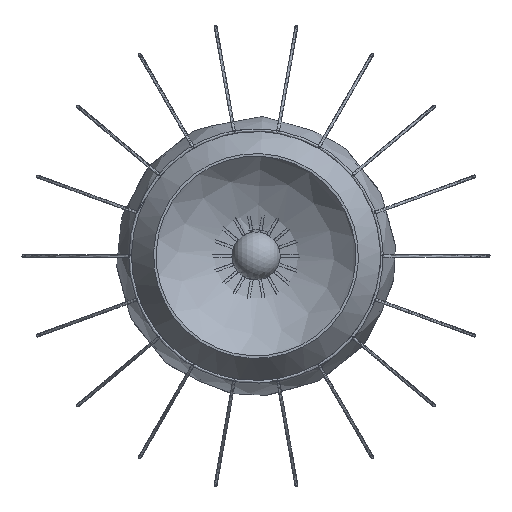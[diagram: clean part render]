
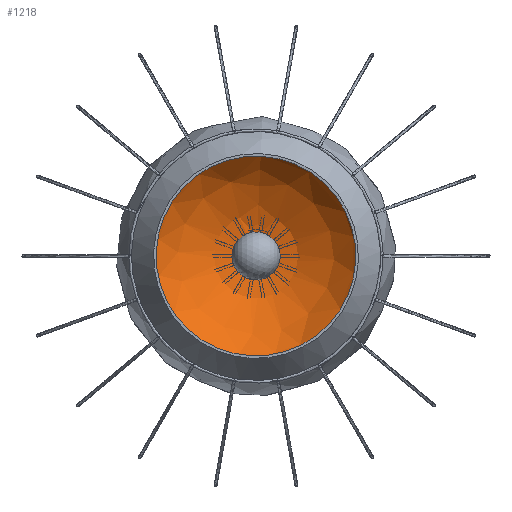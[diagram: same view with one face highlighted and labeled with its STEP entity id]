
A CAD part, front view. The second image highlights one B-rep face of the part: STEP entity #1218.
In plain terms, the highlighted free-form (B-spline) face has degree [2, 2] with [5, 9] control points.
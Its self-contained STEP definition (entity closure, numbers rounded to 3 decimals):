
#27=(
BOUNDED_CURVE()
B_SPLINE_CURVE(2,(#4148,#4149,#4150,#4151,#4152),.UNSPECIFIED.,.F.,.F.)
B_SPLINE_CURVE_WITH_KNOTS((3,2,3),(-0.764,0.395,
1.553),.UNSPECIFIED.)
CURVE()
GEOMETRIC_REPRESENTATION_ITEM()
RATIONAL_B_SPLINE_CURVE((1.,0.837,1.,0.837,1.))
REPRESENTATION_ITEM('')
);
#61=(
BOUNDED_SURFACE()
B_SPLINE_SURFACE(2,2,((#4103,#4104,#4105,#4106,#4107,#4108,#4109,#4110,
#4111),(#4112,#4113,#4114,#4115,#4116,#4117,#4118,#4119,#4120),(#4121,#4122,
#4123,#4124,#4125,#4126,#4127,#4128,#4129),(#4130,#4131,#4132,#4133,#4134,
#4135,#4136,#4137,#4138),(#4139,#4140,#4141,#4142,#4143,#4144,#4145,#4146,
#4147)),.UNSPECIFIED.,.F.,.T.,.F.)
B_SPLINE_SURFACE_WITH_KNOTS((3,2,3),(3,2,2,2,3),(-1.553,-0.395,
0.764),(-3.142,-1.571,0.,1.571,
3.142),.UNSPECIFIED.)
GEOMETRIC_REPRESENTATION_ITEM()
RATIONAL_B_SPLINE_SURFACE(((1.,0.707,1.,0.707,1.,
0.707,1.,0.707,1.),(0.837,0.592,
0.837,0.592,0.837,0.592,
0.837,0.592,0.837),(1.,0.707,
1.,0.707,1.,0.707,1.,0.707,1.),(0.837,
0.592,0.837,0.592,0.837,
0.592,0.837,0.592,0.837),
(1.,0.707,1.,0.707,1.,0.707,1.,0.707,
1.)))
REPRESENTATION_ITEM('')
SURFACE()
);
#286=FACE_OUTER_BOUND('',#391,.T.);
#391=EDGE_LOOP('',(#1033,#1034,#1035,#1036,#1037,#1038));
#468=CIRCLE('',#1345,4.);
#469=CIRCLE('',#1346,4.);
#472=CIRCLE('',#1352,107.247);
#473=CIRCLE('',#1353,107.247);
#586=VERTEX_POINT('',#4088);
#587=VERTEX_POINT('',#4089);
#590=VERTEX_POINT('',#4099);
#591=VERTEX_POINT('',#4100);
#740=EDGE_CURVE('',#586,#587,#468,.T.);
#741=EDGE_CURVE('',#587,#586,#469,.T.);
#744=EDGE_CURVE('',#590,#591,#472,.T.);
#745=EDGE_CURVE('',#591,#590,#473,.T.);
#746=EDGE_CURVE('',#591,#587,#27,.T.);
#1033=ORIENTED_EDGE('',*,*,#744,.T.);
#1034=ORIENTED_EDGE('',*,*,#746,.T.);
#1035=ORIENTED_EDGE('',*,*,#741,.T.);
#1036=ORIENTED_EDGE('',*,*,#740,.T.);
#1037=ORIENTED_EDGE('',*,*,#746,.F.);
#1038=ORIENTED_EDGE('',*,*,#745,.T.);
#1218=ADVANCED_FACE('',(#286),#61,.T.);
#1345=AXIS2_PLACEMENT_3D('',#4090,#1554,#1555);
#1346=AXIS2_PLACEMENT_3D('',#4091,#1556,#1557);
#1352=AXIS2_PLACEMENT_3D('',#4101,#1568,#1569);
#1353=AXIS2_PLACEMENT_3D('',#4102,#1570,#1571);
#1554=DIRECTION('center_axis',(0.,1.,0.));
#1555=DIRECTION('ref_axis',(-1.,0.,0.));
#1556=DIRECTION('center_axis',(0.,1.,0.));
#1557=DIRECTION('ref_axis',(-1.,0.,0.));
#1568=DIRECTION('center_axis',(0.,-1.,0.));
#1569=DIRECTION('ref_axis',(1.,0.,0.));
#1570=DIRECTION('center_axis',(0.,-1.,0.));
#1571=DIRECTION('ref_axis',(1.,0.,0.));
#4088=CARTESIAN_POINT('',(4.,247.984,0.));
#4089=CARTESIAN_POINT('',(0.,247.984,4.));
#4090=CARTESIAN_POINT('Origin',(0.,247.984,0.));
#4091=CARTESIAN_POINT('Origin',(0.,247.984,0.));
#4099=CARTESIAN_POINT('',(107.247,0.,0.));
#4100=CARTESIAN_POINT('',(0.,0.,107.247));
#4101=CARTESIAN_POINT('Origin',(0.,0.,0.));
#4102=CARTESIAN_POINT('Origin',(0.,0.,0.));
#4103=CARTESIAN_POINT('Ctrl Pts',(0.,247.984,4.));
#4104=CARTESIAN_POINT('Ctrl Pts',(-4.,247.984,4.));
#4105=CARTESIAN_POINT('Ctrl Pts',(-4.,247.984,0.));
#4106=CARTESIAN_POINT('Ctrl Pts',(-4.,247.984,-4.));
#4107=CARTESIAN_POINT('Ctrl Pts',(0.,247.984,-4.));
#4108=CARTESIAN_POINT('Ctrl Pts',(4.,247.984,-4.));
#4109=CARTESIAN_POINT('Ctrl Pts',(4.,247.984,0.));
#4110=CARTESIAN_POINT('Ctrl Pts',(4.,247.984,4.));
#4111=CARTESIAN_POINT('Ctrl Pts',(0.,247.984,4.));
#4112=CARTESIAN_POINT('Ctrl Pts',(0.,246.294,99.881));
#4113=CARTESIAN_POINT('Ctrl Pts',(-99.881,246.294,99.881));
#4114=CARTESIAN_POINT('Ctrl Pts',(-99.881,246.294,0.));
#4115=CARTESIAN_POINT('Ctrl Pts',(-99.881,246.294,-99.881));
#4116=CARTESIAN_POINT('Ctrl Pts',(0.,246.294,-99.881));
#4117=CARTESIAN_POINT('Ctrl Pts',(99.881,246.294,-99.881));
#4118=CARTESIAN_POINT('Ctrl Pts',(99.881,246.294,0.));
#4119=CARTESIAN_POINT('Ctrl Pts',(99.881,246.294,99.881));
#4120=CARTESIAN_POINT('Ctrl Pts',(0.,246.294,99.881));
#4121=CARTESIAN_POINT('Ctrl Pts',(0.,157.764,136.74));
#4122=CARTESIAN_POINT('Ctrl Pts',(-136.74,157.764,136.74));
#4123=CARTESIAN_POINT('Ctrl Pts',(-136.74,157.764,0.));
#4124=CARTESIAN_POINT('Ctrl Pts',(-136.74,157.764,-136.74));
#4125=CARTESIAN_POINT('Ctrl Pts',(0.,157.764,-136.74));
#4126=CARTESIAN_POINT('Ctrl Pts',(136.74,157.764,-136.74));
#4127=CARTESIAN_POINT('Ctrl Pts',(136.74,157.764,0.));
#4128=CARTESIAN_POINT('Ctrl Pts',(136.74,157.764,136.74));
#4129=CARTESIAN_POINT('Ctrl Pts',(0.,157.764,136.74));
#4130=CARTESIAN_POINT('Ctrl Pts',(0.,69.235,173.599));
#4131=CARTESIAN_POINT('Ctrl Pts',(-173.599,69.235,173.599));
#4132=CARTESIAN_POINT('Ctrl Pts',(-173.599,69.235,0.));
#4133=CARTESIAN_POINT('Ctrl Pts',(-173.599,69.235,-173.599));
#4134=CARTESIAN_POINT('Ctrl Pts',(0.,69.235,-173.599));
#4135=CARTESIAN_POINT('Ctrl Pts',(173.599,69.235,-173.599));
#4136=CARTESIAN_POINT('Ctrl Pts',(173.599,69.235,0.));
#4137=CARTESIAN_POINT('Ctrl Pts',(173.599,69.235,173.599));
#4138=CARTESIAN_POINT('Ctrl Pts',(0.,69.235,173.599));
#4139=CARTESIAN_POINT('Ctrl Pts',(0.,0.,107.247));
#4140=CARTESIAN_POINT('Ctrl Pts',(-107.247,0.,107.247));
#4141=CARTESIAN_POINT('Ctrl Pts',(-107.247,0.,0.));
#4142=CARTESIAN_POINT('Ctrl Pts',(-107.247,0.,-107.247));
#4143=CARTESIAN_POINT('Ctrl Pts',(0.,0.,-107.247));
#4144=CARTESIAN_POINT('Ctrl Pts',(107.247,0.,-107.247));
#4145=CARTESIAN_POINT('Ctrl Pts',(107.247,0.,0.));
#4146=CARTESIAN_POINT('Ctrl Pts',(107.247,0.,107.247));
#4147=CARTESIAN_POINT('Ctrl Pts',(0.,0.,107.247));
#4148=CARTESIAN_POINT('Ctrl Pts',(0.,0.,107.247));
#4149=CARTESIAN_POINT('Ctrl Pts',(0.,69.235,173.599));
#4150=CARTESIAN_POINT('Ctrl Pts',(0.,157.764,136.74));
#4151=CARTESIAN_POINT('Ctrl Pts',(0.,246.294,99.881));
#4152=CARTESIAN_POINT('Ctrl Pts',(0.,247.984,4.));
